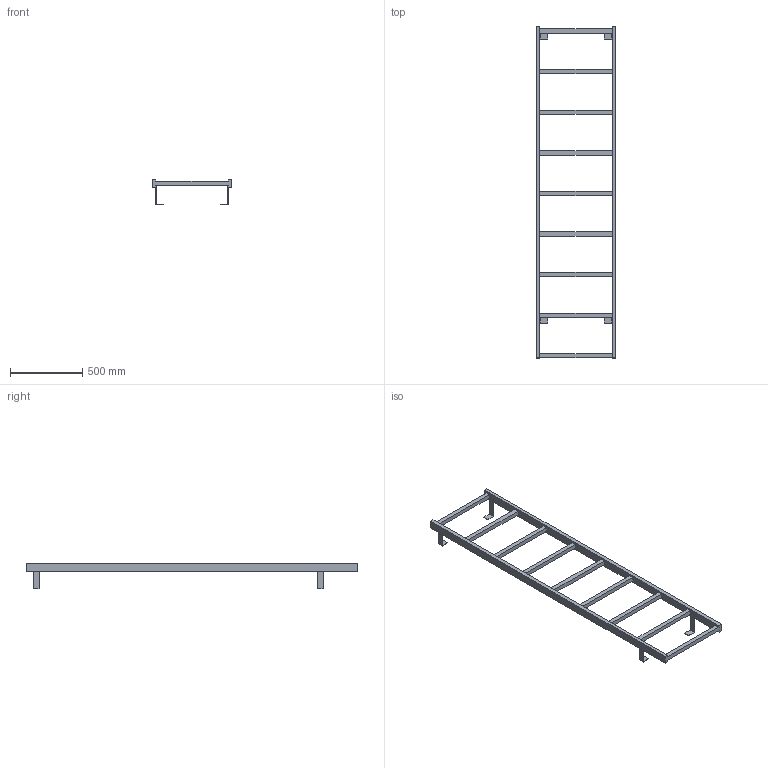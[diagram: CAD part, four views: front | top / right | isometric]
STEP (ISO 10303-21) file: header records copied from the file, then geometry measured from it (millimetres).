
FILE_DESCRIPTION((''),'2;1');
FILE_NAME('52311187','2024-10-17T13:44:16',('wep'),('HUBER SE'),'CREO PARAMETRIC BY PTC INC, 2022162','CREO PARAMETRIC BY PTC INC, 2022162','');
FILE_SCHEMA(('AUTOMOTIVE_DESIGN { 1 0 10303 214 1 1 1 1 }'));
Length unit declared in the file: millimetre
Products named in the file (1): 52311187
Bounding box: 550 x 2290 x 178.5 mm (x, y, z)
Volume: 10641460 mm3; surface area: 1340108 mm2
Topology: 1 solids, 1 shells, 78 faces, 228 edges, 148 vertices
Faces by surface type: plane 78
Entity records: 3117 total; most frequent: CARTESIAN_POINT 456, ORIENTED_EDGE 456, DIRECTION 384, VECTOR 228, LINE 228, EDGE_CURVE 228, VERTEX_POINT 148, COLOUR_RGB 106
